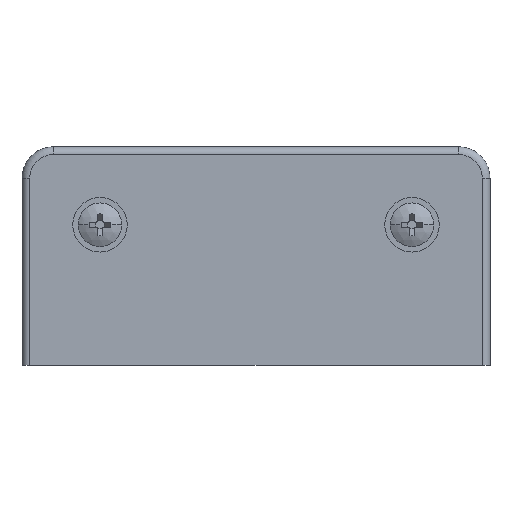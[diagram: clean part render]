
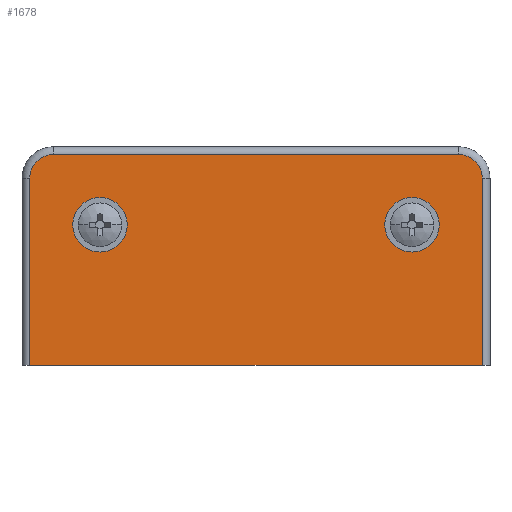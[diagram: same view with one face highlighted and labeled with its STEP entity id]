
A CAD part, front view. The second image highlights one B-rep face of the part: STEP entity #1678.
In plain terms, the highlighted planar face has unit normal (0, -1, 0).
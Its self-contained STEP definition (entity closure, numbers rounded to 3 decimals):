
#27 = FACE_OUTER_BOUND ( 'NONE', #808, .T. ) ;
#38 = CARTESIAN_POINT ( 'NONE',  ( -20., -12.5, 14.5 ) ) ;
#58 = CARTESIAN_POINT ( 'NONE',  ( 20., -12.5, 14.5 ) ) ;
#80 = DIRECTION ( 'NONE',  ( 0., 0., 1. ) ) ;
#140 = DIRECTION ( 'NONE',  ( 0., 0., 1. ) ) ;
#241 = ORIENTED_EDGE ( 'NONE', *, *, #1390, .T. ) ;
#264 = AXIS2_PLACEMENT_3D ( 'NONE', #1658, #1091, #3324 ) ;
#275 = DIRECTION ( 'NONE',  ( 0., -1., 0. ) ) ;
#280 = CARTESIAN_POINT ( 'NONE',  ( -29., -12.5, 24. ) ) ;
#321 = CARTESIAN_POINT ( 'NONE',  ( 29., -12.5, 24. ) ) ;
#364 = ORIENTED_EDGE ( 'NONE', *, *, #1303, .T. ) ;
#430 = EDGE_LOOP ( 'NONE', ( #2627, #3205 ) ) ;
#461 = CARTESIAN_POINT ( 'NONE',  ( 29., -12.5, 0. ) ) ;
#498 = AXIS2_PLACEMENT_3D ( 'NONE', #3374, #677, #3084 ) ;
#551 = CIRCLE ( 'NONE', #3095, 3.5 ) ;
#566 = DIRECTION ( 'NONE',  ( 0., 0., -1. ) ) ;
#613 = DIRECTION ( 'NONE',  ( -1., 0., 0. ) ) ;
#614 = VECTOR ( 'NONE', #1057, 1000. ) ;
#648 = ORIENTED_EDGE ( 'NONE', *, *, #2023, .T. ) ;
#659 = AXIS2_PLACEMENT_3D ( 'NONE', #825, #1381, #3285 ) ;
#677 = DIRECTION ( 'NONE',  ( 0., -1., 0. ) ) ;
#726 = EDGE_CURVE ( 'NONE', #2361, #2052, #3307, .T. ) ;
#782 = CARTESIAN_POINT ( 'NONE',  ( 20., -12.5, 18. ) ) ;
#784 = VERTEX_POINT ( 'NONE', #280 ) ;
#808 = EDGE_LOOP ( 'NONE', ( #364, #1380, #648, #3473, #3400, #241 ) ) ;
#825 = CARTESIAN_POINT ( 'NONE',  ( -20., -12.5, 18. ) ) ;
#836 = CIRCLE ( 'NONE', #659, 3.5 ) ;
#859 = EDGE_LOOP ( 'NONE', ( #2421, #1010 ) ) ;
#873 = EDGE_CURVE ( 'NONE', #1672, #2170, #2685, .T. ) ;
#956 = EDGE_CURVE ( 'NONE', #1346, #1447, #1235, .T. ) ;
#1010 = ORIENTED_EDGE ( 'NONE', *, *, #956, .F. ) ;
#1044 = CARTESIAN_POINT ( 'NONE',  ( -30., -12.5, 0. ) ) ;
#1057 = DIRECTION ( 'NONE',  ( 0., 0., -1. ) ) ;
#1084 = CARTESIAN_POINT ( 'NONE',  ( -30., -12.5, 27. ) ) ;
#1091 = DIRECTION ( 'NONE',  ( 0., -1., 0. ) ) ;
#1112 = DIRECTION ( 'NONE',  ( 0., 0., 1. ) ) ;
#1191 = CARTESIAN_POINT ( 'NONE',  ( -26., -12.5, 24. ) ) ;
#1235 = CIRCLE ( 'NONE', #2979, 3.5 ) ;
#1241 = CIRCLE ( 'NONE', #264, 3. ) ;
#1303 = EDGE_CURVE ( 'NONE', #1639, #784, #2689, .T. ) ;
#1334 = CARTESIAN_POINT ( 'NONE',  ( 26., -12.5, 27. ) ) ;
#1346 = VERTEX_POINT ( 'NONE', #3297 ) ;
#1380 = ORIENTED_EDGE ( 'NONE', *, *, #3519, .T. ) ;
#1381 = DIRECTION ( 'NONE',  ( 0., -1., 0. ) ) ;
#1390 = EDGE_CURVE ( 'NONE', #3505, #1639, #2480, .T. ) ;
#1447 = VERTEX_POINT ( 'NONE', #38 ) ;
#1466 = VECTOR ( 'NONE', #613, 1000. ) ;
#1639 = VERTEX_POINT ( 'NONE', #3350 ) ;
#1648 = CARTESIAN_POINT ( 'NONE',  ( -29., -12.5, 0. ) ) ;
#1658 = CARTESIAN_POINT ( 'NONE',  ( 26., -12.5, 24. ) ) ;
#1672 = VERTEX_POINT ( 'NONE', #58 ) ;
#1678 = ADVANCED_FACE ( 'NONE', ( #2837, #3098, #27 ), #2563, .F. ) ;
#1873 = DIRECTION ( 'NONE',  ( 0., -1., 0. ) ) ;
#1901 = DIRECTION ( 'NONE',  ( 1., 0., 0. ) ) ;
#1955 = DIRECTION ( 'NONE',  ( 0., 0., 1. ) ) ;
#1962 = EDGE_CURVE ( 'NONE', #1447, #1346, #836, .T. ) ;
#2023 = EDGE_CURVE ( 'NONE', #2041, #2361, #2422, .T. ) ;
#2041 = VERTEX_POINT ( 'NONE', #1648 ) ;
#2052 = VERTEX_POINT ( 'NONE', #321 ) ;
#2170 = VERTEX_POINT ( 'NONE', #2818 ) ;
#2276 = CARTESIAN_POINT ( 'NONE',  ( -30., -12.5, 28. ) ) ;
#2294 = DIRECTION ( 'NONE',  ( 0., -1., 0. ) ) ;
#2328 = AXIS2_PLACEMENT_3D ( 'NONE', #2276, #3114, #1955 ) ;
#2361 = VERTEX_POINT ( 'NONE', #461 ) ;
#2396 = LINE ( 'NONE', #2435, #614 ) ;
#2421 = ORIENTED_EDGE ( 'NONE', *, *, #1962, .F. ) ;
#2422 = LINE ( 'NONE', #1044, #2975 ) ;
#2435 = CARTESIAN_POINT ( 'NONE',  ( -29., -12.5, 28. ) ) ;
#2480 = LINE ( 'NONE', #1084, #1466 ) ;
#2563 = PLANE ( 'NONE',  #2328 ) ;
#2565 = AXIS2_PLACEMENT_3D ( 'NONE', #1191, #2294, #80 ) ;
#2601 = VECTOR ( 'NONE', #1112, 1000. ) ;
#2627 = ORIENTED_EDGE ( 'NONE', *, *, #873, .F. ) ;
#2646 = EDGE_CURVE ( 'NONE', #2170, #1672, #551, .T. ) ;
#2685 = CIRCLE ( 'NONE', #498, 3.5 ) ;
#2689 = CIRCLE ( 'NONE', #2565, 3. ) ;
#2728 = CARTESIAN_POINT ( 'NONE',  ( 29., -12.5, 28. ) ) ;
#2765 = EDGE_CURVE ( 'NONE', #2052, #3505, #1241, .T. ) ;
#2818 = CARTESIAN_POINT ( 'NONE',  ( 20., -12.5, 21.5 ) ) ;
#2837 = FACE_BOUND ( 'NONE', #430, .T. ) ;
#2975 = VECTOR ( 'NONE', #1901, 1000. ) ;
#2979 = AXIS2_PLACEMENT_3D ( 'NONE', #3464, #1873, #140 ) ;
#3084 = DIRECTION ( 'NONE',  ( 0., 0., -1. ) ) ;
#3095 = AXIS2_PLACEMENT_3D ( 'NONE', #782, #275, #566 ) ;
#3098 = FACE_BOUND ( 'NONE', #859, .T. ) ;
#3114 = DIRECTION ( 'NONE',  ( 0., 1., 0. ) ) ;
#3205 = ORIENTED_EDGE ( 'NONE', *, *, #2646, .F. ) ;
#3285 = DIRECTION ( 'NONE',  ( 0., 0., 1. ) ) ;
#3297 = CARTESIAN_POINT ( 'NONE',  ( -20., -12.5, 21.5 ) ) ;
#3307 = LINE ( 'NONE', #2728, #2601 ) ;
#3324 = DIRECTION ( 'NONE',  ( 0., 0., 1. ) ) ;
#3350 = CARTESIAN_POINT ( 'NONE',  ( -26., -12.5, 27. ) ) ;
#3374 = CARTESIAN_POINT ( 'NONE',  ( 20., -12.5, 18. ) ) ;
#3400 = ORIENTED_EDGE ( 'NONE', *, *, #2765, .T. ) ;
#3464 = CARTESIAN_POINT ( 'NONE',  ( -20., -12.5, 18. ) ) ;
#3473 = ORIENTED_EDGE ( 'NONE', *, *, #726, .T. ) ;
#3505 = VERTEX_POINT ( 'NONE', #1334 ) ;
#3519 = EDGE_CURVE ( 'NONE', #784, #2041, #2396, .T. ) ;
